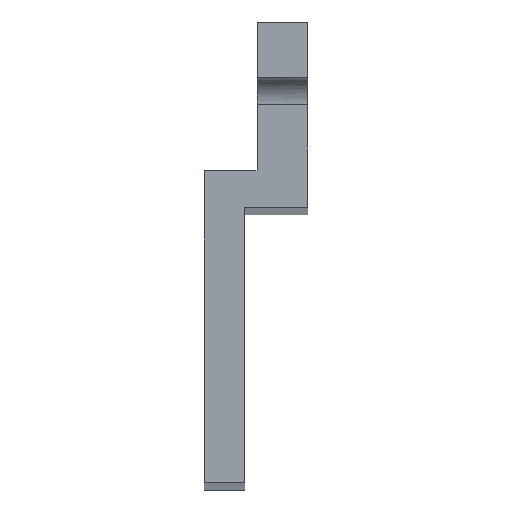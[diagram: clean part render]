
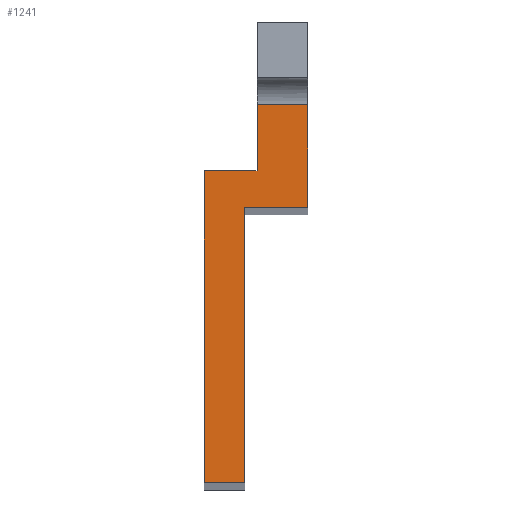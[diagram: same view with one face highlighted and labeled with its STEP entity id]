
A CAD part, top view. The second image highlights one B-rep face of the part: STEP entity #1241.
In plain terms, the highlighted free-form (B-spline) face has degree [1, 1] with [2, 2] control points.
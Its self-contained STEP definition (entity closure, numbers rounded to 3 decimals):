
#1241=ADVANCED_FACE('F134',(#3035),#3036,.T.);
#2099=EDGE_CURVE('E404',#4480,#4481,#4482,.T.);
#2107=EDGE_CURVE('E392',#4481,#4492,#4493,.T.);
#2113=EDGE_CURVE('E401',#4492,#4500,#4501,.T.);
#2119=EDGE_CURVE('E375',#4508,#4480,#4509,.T.);
#2121=EDGE_CURVE('E407',#4508,#4511,#4512,.T.);
#2123=EDGE_CURVE('E391',#4514,#4511,#4515,.T.);
#2125=EDGE_CURVE('E398',#4517,#4514,#4518,.T.);
#2127=EDGE_CURVE('E408',#4500,#4517,#4520,.T.);
#3035=FACE_OUTER_BOUND('',#10367,.T.);
#3036=B_SPLINE_SURFACE_WITH_KNOTS('',1,1,((#10368,#10369),(#10370,#10371)),.UNSPECIFIED.,.F.,.F.,.F.,(2,2),(2,2),(0.0,3.092),(0.0,0.85),.UNSPECIFIED.);
#4480=VERTEX_POINT('V253',#16802);
#4481=VERTEX_POINT('V267',#16803);
#4482=B_SPLINE_CURVE_WITH_KNOTS('',1,(#16804,#16805),.UNSPECIFIED.,.F.,.F.,(2,2),(0.0,1.0),.UNSPECIFIED.);
#4492=VERTEX_POINT('V268',#16822);
#4493=B_SPLINE_CURVE_WITH_KNOTS('',1,(#16823,#16824),.UNSPECIFIED.,.F.,.F.,(2,2),(0.0,1.0),.UNSPECIFIED.);
#4500=VERTEX_POINT('V273',#16836);
#4501=B_SPLINE_CURVE_WITH_KNOTS('',1,(#16837,#16838),.UNSPECIFIED.,.F.,.F.,(2,2),(0.0,1.0),.UNSPECIFIED.);
#4508=VERTEX_POINT('V252',#16850);
#4509=B_SPLINE_CURVE_WITH_KNOTS('',1,(#16851,#16852),.UNSPECIFIED.,.F.,.F.,(2,2),(0.0,1.0),.UNSPECIFIED.);
#4511=VERTEX_POINT('V259',#16855);
#4512=B_SPLINE_CURVE_WITH_KNOTS('',1,(#16856,#16857),.UNSPECIFIED.,.F.,.F.,(2,2),(0.15,0.567),.UNSPECIFIED.);
#4514=VERTEX_POINT('V266',#16860);
#4515=B_SPLINE_CURVE_WITH_KNOTS('',1,(#16861,#16862),.UNSPECIFIED.,.F.,.F.,(2,2),(0.0,1.0),.UNSPECIFIED.);
#4517=VERTEX_POINT('V271',#16865);
#4518=B_SPLINE_CURVE_WITH_KNOTS('',1,(#16866,#16867),.UNSPECIFIED.,.F.,.F.,(2,2),(0.0,1.0),.UNSPECIFIED.);
#4520=B_SPLINE_CURVE_WITH_KNOTS('',1,(#16870,#16871),.UNSPECIFIED.,.F.,.F.,(2,2),(0.005,0.826),.UNSPECIFIED.);
#10367=EDGE_LOOP('',(#18442,#18443,#18444,#18445,#18446,#18447,#18448,#18449));
#10368=CARTESIAN_POINT('',(-2.078,42.578,210.86));
#10369=CARTESIAN_POINT('',(3.023,42.578,210.86));
#10370=CARTESIAN_POINT('',(-2.078,24.027,210.86));
#10371=CARTESIAN_POINT('',(3.023,24.027,210.86));
#16802=CARTESIAN_POINT('',(3.022,37.528,210.86));
#16803=CARTESIAN_POINT('',(-0.078,37.528,210.86));
#16804=CARTESIAN_POINT('',(3.022,37.528,210.86));
#16805=CARTESIAN_POINT('',(-0.078,37.528,210.86));
#16822=CARTESIAN_POINT('',(-0.078,24.028,210.86));
#16823=CARTESIAN_POINT('',(-0.078,37.528,210.86));
#16824=CARTESIAN_POINT('',(-0.078,24.028,210.86));
#16836=CARTESIAN_POINT('',(-2.078,24.028,210.86));
#16837=CARTESIAN_POINT('',(-0.078,24.028,210.86));
#16838=CARTESIAN_POINT('',(-2.078,24.028,210.86));
#16850=CARTESIAN_POINT('',(3.022,42.578,210.86));
#16851=CARTESIAN_POINT('',(3.022,42.578,210.86));
#16852=CARTESIAN_POINT('',(3.022,37.528,210.86));
#16855=CARTESIAN_POINT('',(0.522,42.578,210.86));
#16856=CARTESIAN_POINT('',(3.022,42.578,210.86));
#16857=CARTESIAN_POINT('',(0.522,42.578,210.86));
#16860=CARTESIAN_POINT('',(0.522,39.328,210.86));
#16861=CARTESIAN_POINT('',(0.522,39.328,210.86));
#16862=CARTESIAN_POINT('',(0.522,42.578,210.86));
#16865=CARTESIAN_POINT('',(-2.078,39.328,210.86));
#16866=CARTESIAN_POINT('',(-2.078,39.328,210.86));
#16867=CARTESIAN_POINT('',(0.522,39.328,210.86));
#16870=CARTESIAN_POINT('',(-2.078,24.028,210.86));
#16871=CARTESIAN_POINT('',(-2.078,39.328,210.86));
#18442=ORIENTED_EDGE('',*,*,#2119,.F.);
#18443=ORIENTED_EDGE('',*,*,#2121,.T.);
#18444=ORIENTED_EDGE('',*,*,#2123,.F.);
#18445=ORIENTED_EDGE('',*,*,#2125,.F.);
#18446=ORIENTED_EDGE('',*,*,#2127,.F.);
#18447=ORIENTED_EDGE('',*,*,#2113,.F.);
#18448=ORIENTED_EDGE('',*,*,#2107,.F.);
#18449=ORIENTED_EDGE('',*,*,#2099,.F.);
